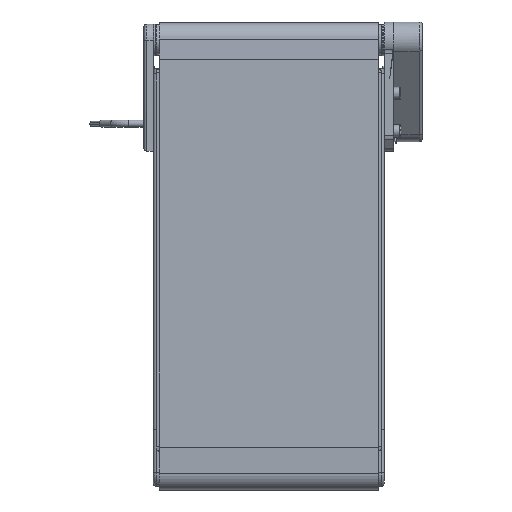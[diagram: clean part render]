
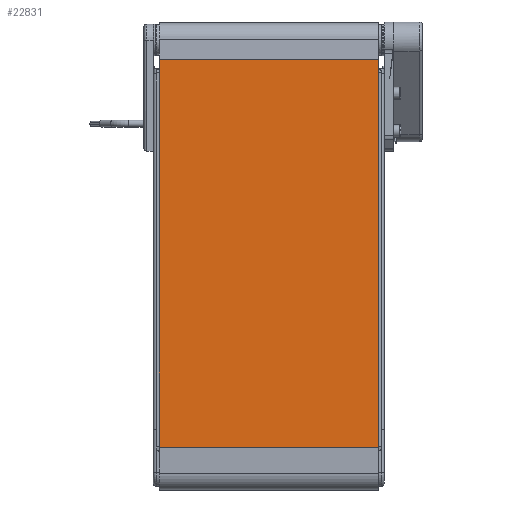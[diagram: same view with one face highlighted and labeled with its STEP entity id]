
A CAD part, left-side view. The second image highlights one B-rep face of the part: STEP entity #22831.
In plain terms, the highlighted planar face has unit normal (-1, 0, 0).
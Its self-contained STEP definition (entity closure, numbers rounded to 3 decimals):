
#1193=PLANE('',#24980);
#2220=FACE_OUTER_BOUND('',#3525,.T.);
#3525=EDGE_LOOP('',(#18619,#18620,#18621,#18622));
#5182=LINE('',#44917,#6884);
#5189=LINE('',#44932,#6891);
#5190=LINE('',#44935,#6892);
#5191=LINE('',#44936,#6893);
#6884=VECTOR('',#30317,10.);
#6891=VECTOR('',#30332,10.);
#6892=VECTOR('',#30335,10.);
#6893=VECTOR('',#30336,10.);
#10045=VERTEX_POINT('',#44914);
#10046=VERTEX_POINT('',#44916);
#10050=VERTEX_POINT('',#44930);
#10051=VERTEX_POINT('',#44934);
#13003=EDGE_CURVE('',#10045,#10046,#5182,.T.);
#13011=EDGE_CURVE('',#10045,#10050,#5189,.T.);
#13012=EDGE_CURVE('',#10051,#10050,#5190,.T.);
#13013=EDGE_CURVE('',#10046,#10051,#5191,.T.);
#18619=ORIENTED_EDGE('',*,*,#13011,.T.);
#18620=ORIENTED_EDGE('',*,*,#13012,.F.);
#18621=ORIENTED_EDGE('',*,*,#13013,.F.);
#18622=ORIENTED_EDGE('',*,*,#13003,.F.);
#22831=ADVANCED_FACE('',(#2220),#1193,.T.);
#24980=AXIS2_PLACEMENT_3D('',#44933,#30333,#30334);
#30317=DIRECTION('',(0.,0.,-1.));
#30332=DIRECTION('',(0.,1.,0.));
#30333=DIRECTION('center_axis',(-1.,0.,0.));
#30334=DIRECTION('ref_axis',(0.,0.,
1.));
#30335=DIRECTION('',(0.,0.,1.));
#30336=DIRECTION('',(0.,1.,0.));
#44914=CARTESIAN_POINT('',(-12.5,-6.,133.219));
#44916=CARTESIAN_POINT('',(-12.5,-6.,-135.814));
#44917=CARTESIAN_POINT('',(-12.5,-6.,-135.814));
#44930=CARTESIAN_POINT('',(-12.5,146.,133.219));
#44932=CARTESIAN_POINT('',(-12.5,70.,133.219));
#44933=CARTESIAN_POINT('Origin',(-12.5,70.,-135.814));
#44934=CARTESIAN_POINT('',(-12.5,146.,-135.814));
#44935=CARTESIAN_POINT('',(-12.5,146.,-135.814));
#44936=CARTESIAN_POINT('',(-12.5,70.,-135.814));
